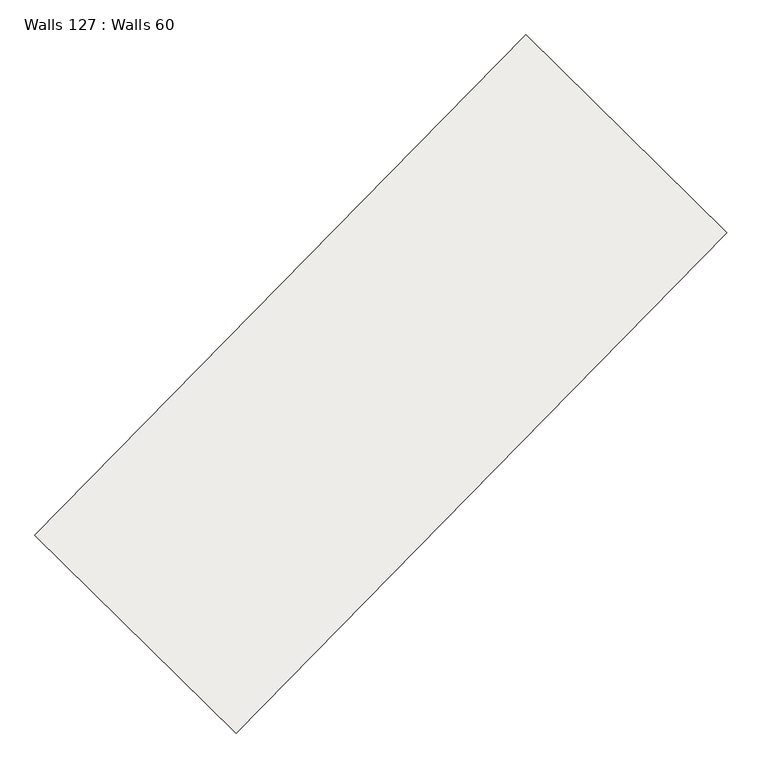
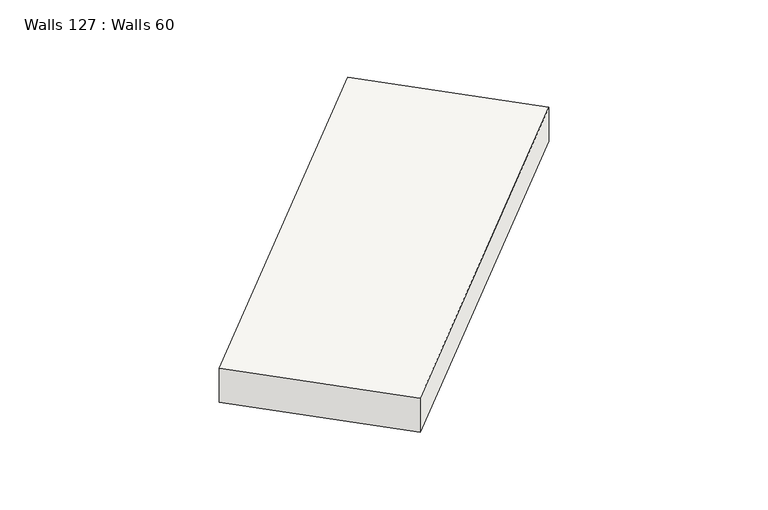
"""IFC4 building model written with IfcOpenShell, lengths in millimetres: slab geometry, Walls 127 : Walls 60."""

from ifc_helpers import new_model, si_unit, frame, origin, place, context, project, spatial, polyline, outline, extrude, source, transform, mapped, element, save


def walls_127_walls_60_a9c70183(model_context):
    return source(origin(), model_context, "Body", "SweptSolid", [
        extrude(outline(polyline([(-350.0, 0.0), (350.0, 0.0), (260.0, -8699.9999995), (-440.0, -8699.9999995), (-350.0, 0.0)])), frame((-18302.3891489, -177852.6216903, 638180.0), z_axis=(-0.71373616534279, 0.7004146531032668, 0.0), x_axis=(0.0, 0.0, 1.0)), (0.0, 0.0, 1.0), 3499.999995),
    ])


if __name__ == "__main__":
    model = new_model("IFC4")
    model_context = context("Model", 3, world=origin())
    ifc_project = project(units=[si_unit("LENGTHUNIT", "METRE", prefix="MILLI")], contexts=[model_context])
    site = spatial("IfcSite", under=ifc_project)
    building = spatial("IfcBuilding", under=site)
    placement = place(None, origin())
    walls_127_walls_60_shape = walls_127_walls_60_a9c70183(model_context)
    element("IfcSlab", 1, ObjectType="Walls 127 : Walls 60", at=placement, inside=building, context=model_context, shape_type="MappedRepresentation", body=[
        mapped(walls_127_walls_60_shape, transform((0.0, 0.0, 0.0), x_axis=(1.0, 0.0, 0.0), y_axis=(0.0, 1.0, 0.0), z_axis=(0.0, 0.0, 1.0))),
    ])
    save(model, "model.ifc")
